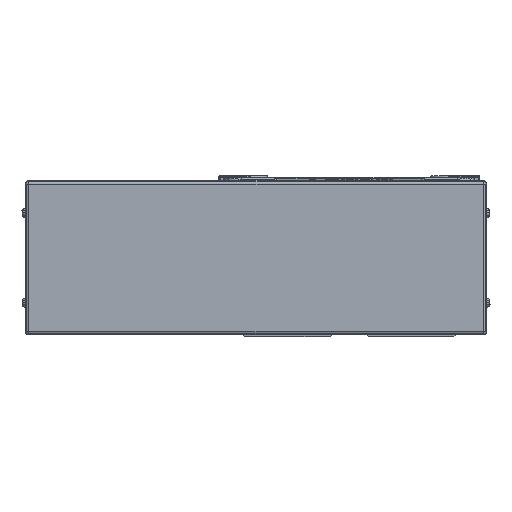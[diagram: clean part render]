
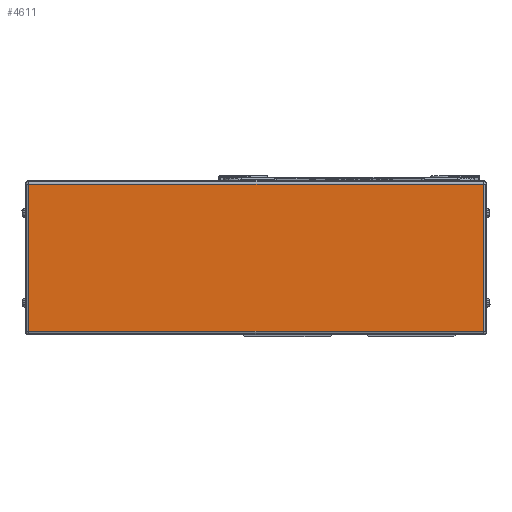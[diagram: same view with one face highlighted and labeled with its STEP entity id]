
A CAD part, left-side view. The second image highlights one B-rep face of the part: STEP entity #4611.
In plain terms, the highlighted planar face has unit normal (-1, 0, 0).
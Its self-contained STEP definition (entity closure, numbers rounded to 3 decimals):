
#4611=ADVANCED_FACE('',(#10880),#10881,.F.);
#10880=FACE_OUTER_BOUND('',#19589,.T.);
#10881=PLANE('',#19590);
#19589=EDGE_LOOP('',(#33170,#33171,#33172,#33173));
#19590=AXIS2_PLACEMENT_3D('',#33174,#33175,#33176);
#33170=ORIENTED_EDGE('',*,*,#51088,.T.);
#33171=ORIENTED_EDGE('',*,*,#53764,.T.);
#33172=ORIENTED_EDGE('',*,*,#53765,.T.);
#33173=ORIENTED_EDGE('',*,*,#51169,.T.);
#33174=CARTESIAN_POINT('',(-45.,180.5,0.));
#33175=DIRECTION('',(1.0,0.,0.));
#33176=DIRECTION('',(0.,0.,1.0));
#51088=EDGE_CURVE('',#61245,#61243,#61246,.T.);
#51169=EDGE_CURVE('',#61385,#61245,#61386,.T.);
#53764=EDGE_CURVE('',#61243,#65632,#65633,.T.);
#53765=EDGE_CURVE('',#65632,#61385,#65634,.T.);
#61243=VERTEX_POINT('',#75470);
#61245=VERTEX_POINT('',#75472);
#61246=LINE('',#75473,#75474);
#61385=VERTEX_POINT('',#75679);
#61386=LINE('',#75680,#75681);
#65632=VERTEX_POINT('',#81794);
#65633=LINE('',#81795,#81796);
#65634=LINE('',#81797,#81798);
#75470=CARTESIAN_POINT('',(-45.,178.5,-41.));
#75472=CARTESIAN_POINT('',(-45.,178.5,41.));
#75473=CARTESIAN_POINT('',(-45.,178.5,0.));
#75474=VECTOR('',#92975,10.0);
#75679=CARTESIAN_POINT('',(-45.,-74.5,41.));
#75680=CARTESIAN_POINT('',(-45.,180.5,41.));
#75681=VECTOR('',#93096,10.0);
#81794=CARTESIAN_POINT('',(-45.,-74.5,-41.));
#81795=CARTESIAN_POINT('',(-45.,180.5,-41.));
#81796=VECTOR('',#96546,10.0);
#81797=CARTESIAN_POINT('',(-45.,-74.5,0.));
#81798=VECTOR('',#96547,10.0);
#92975=DIRECTION('',(0.,0.,-1.0));
#93096=DIRECTION('',(0.,1.0,0.));
#96546=DIRECTION('',(0.,-1.0,0.));
#96547=DIRECTION('',(0.,0.,1.0));
